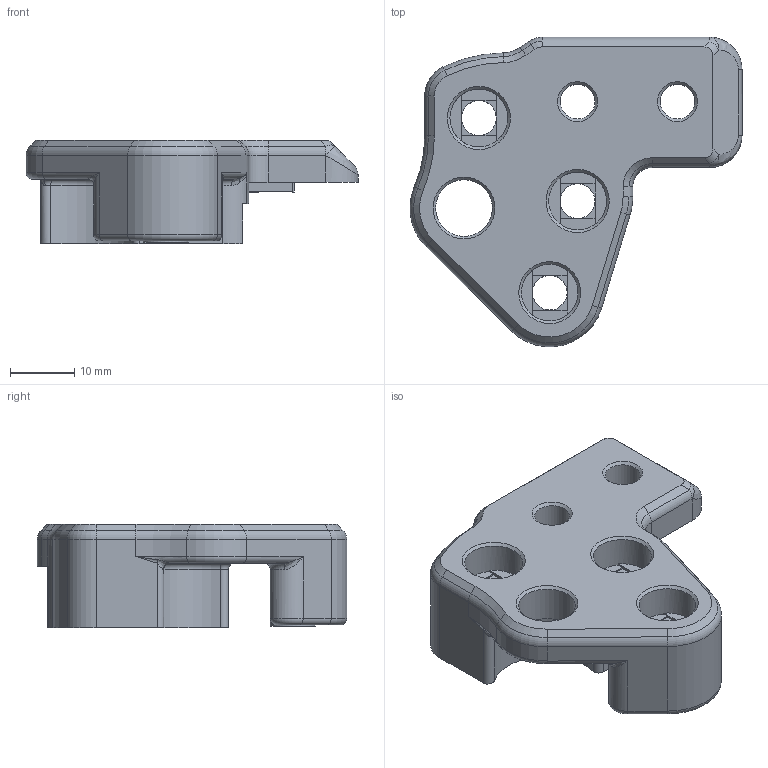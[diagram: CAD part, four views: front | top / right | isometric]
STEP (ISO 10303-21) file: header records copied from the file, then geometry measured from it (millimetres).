
FILE_DESCRIPTION(/* description */ (''),/* implementation_level */ '2;1');
FILE_NAME(/* name */ 'XY-Joint-Left-Upper 380mm.step',/* time_stamp */ '2023-02-24T19:20:47+01:00',/* author */ (''),/* organization */ (''),/* preprocessor_version */ 'ST-DEVELOPER v19.2',/* originating_system */ 'Autodesk Translation Framework v11.17.0.187',/* authorisation */ '');
FILE_SCHEMA (('AUTOMOTIVE_DESIGN { 1 0 10303 214 3 1 1 }'));
Length unit declared in the file: millimetre
Products named in the file (1): (Unsaved)
Bounding box: 51.51 x 48 x 16 mm (x, y, z)
Volume: 13559.2 mm3; surface area: 6726.4 mm2
Topology: 1 solids, 1 shells, 175 faces, 444 edges, 269 vertices
Faces by surface type: plane 72, cylinder 54, torus 21, cone 16, bspline 10, sphere 2
Full cylindrical faces by diameter (mm): 5.4 x5, 7 x1, 8.8 x2, 9 x2
Entity records: 5605 total; most frequent: CARTESIAN_POINT 1263, DIRECTION 950, ORIENTED_EDGE 882, EDGE_CURVE 441, AXIS2_PLACEMENT_3D 360, VERTEX_POINT 269, LINE 230, VECTOR 230
